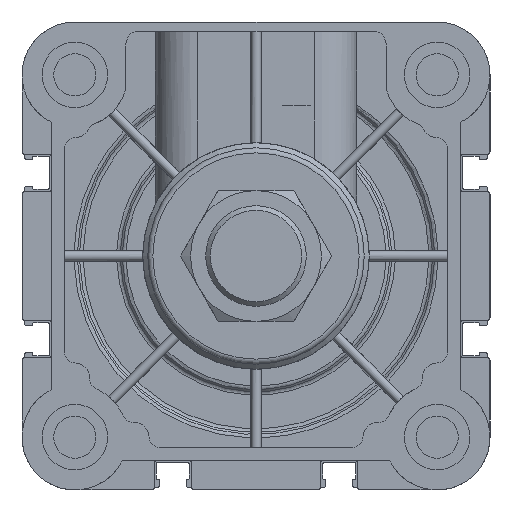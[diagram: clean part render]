
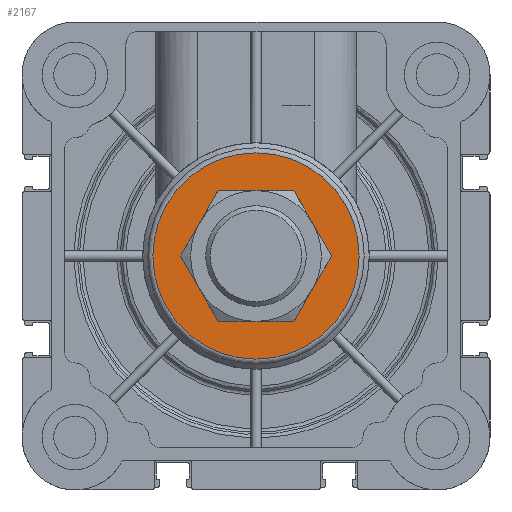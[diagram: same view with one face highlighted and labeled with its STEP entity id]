
A CAD part, left-side view. The second image highlights one B-rep face of the part: STEP entity #2167.
In plain terms, the highlighted planar face has unit normal (-1, 0, 0).
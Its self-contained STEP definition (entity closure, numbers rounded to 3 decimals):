
#2167 = ADVANCED_FACE( '', ( #4476, #4477 ), #4478, .F. );
#4476 = FACE_BOUND( '', #6820, .T. );
#4477 = FACE_OUTER_BOUND( '', #6821, .T. );
#4478 = PLANE( '', #6822 );
#6820 = EDGE_LOOP( '', ( #13167 ) );
#6821 = EDGE_LOOP( '', ( #13168 ) );
#6822 = AXIS2_PLACEMENT_3D( '', #13169, #13170, #13171 );
#13167 = ORIENTED_EDGE( '', *, *, #14457, .F. );
#13168 = ORIENTED_EDGE( '', *, *, #15365, .T. );
#13169 = CARTESIAN_POINT( '', ( -33., 0., 20.5 ) );
#13170 = DIRECTION( '', ( 1., 0., 0. ) );
#13171 = DIRECTION( '', ( 0., 0., -1. ) );
#14457 = EDGE_CURVE( '', #17662, #17662, #17663, .F. );
#15365 = EDGE_CURVE( '', #19044, #19044, #19045, .T. );
#17662 = VERTEX_POINT( '', #22228 );
#17663 = CIRCLE( '', #22229, 12.5 );
#19044 = VERTEX_POINT( '', #24510 );
#19045 = CIRCLE( '', #24511, 20.5 );
#22228 = CARTESIAN_POINT( '', ( -33., 0., -12.5 ) );
#22229 = AXIS2_PLACEMENT_3D( '', #27223, #27224, #27225 );
#24510 = CARTESIAN_POINT( '', ( -33., 0., 20.5 ) );
#24511 = AXIS2_PLACEMENT_3D( '', #28325, #28326, #28327 );
#27223 = CARTESIAN_POINT( '', ( -33., 0., 0. ) );
#27224 = DIRECTION( '', ( 1., 0., 0. ) );
#27225 = DIRECTION( '', ( 0., 0., -1. ) );
#28325 = CARTESIAN_POINT( '', ( -33., 0., 0. ) );
#28326 = DIRECTION( '', ( -1., 0., 0. ) );
#28327 = DIRECTION( '', ( 0., 0., 1. ) );
